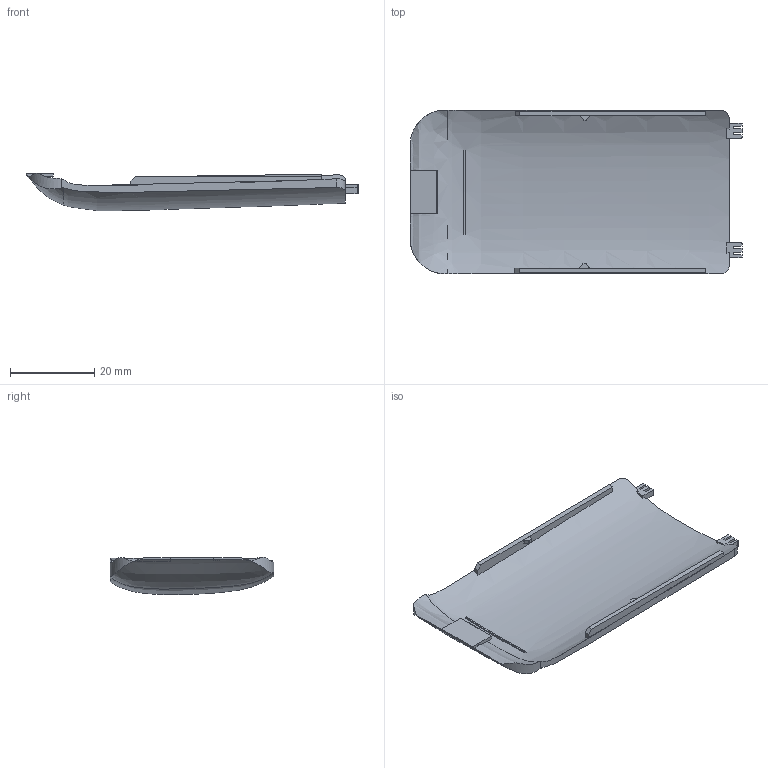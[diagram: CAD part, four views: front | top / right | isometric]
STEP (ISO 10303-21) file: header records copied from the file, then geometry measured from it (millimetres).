
FILE_DESCRIPTION(('Open CASCADE Model'),'2;1');
FILE_NAME('Open CASCADE Shape Model','2026-11-06T01:20:53',('Author'),( 'Open CASCADE'),'Open CASCADE STEP processor 7.8','Open CASCADE 7.8' ,'Unknown');
FILE_SCHEMA(('AUTOMOTIVE_DESIGN { 1 0 10303 214 1 1 1 1 }'));
Products named in the file (1): Open CASCADE STEP translator 7.8 1
Bounding box: 79.02 x 39.02 x 8.89 mm (x, y, z)
Volume: 7549.8 mm3; surface area: 7239.2 mm2
Topology: 1 solids, 1 shells, 86 faces, 280 edges, 201 vertices
Faces by surface type: plane 61, cylinder 18, bspline 7
Entity records: 53744 total; most frequent: CARTESIAN_POINT 48962, DIRECTION 629, ORIENTED_EDGE 560, PCURVE 560, DEFINITIONAL_REPRESENTATION 560, LINE 393, VECTOR 393, B_SPLINE_CURVE_WITH_KNOTS 389
